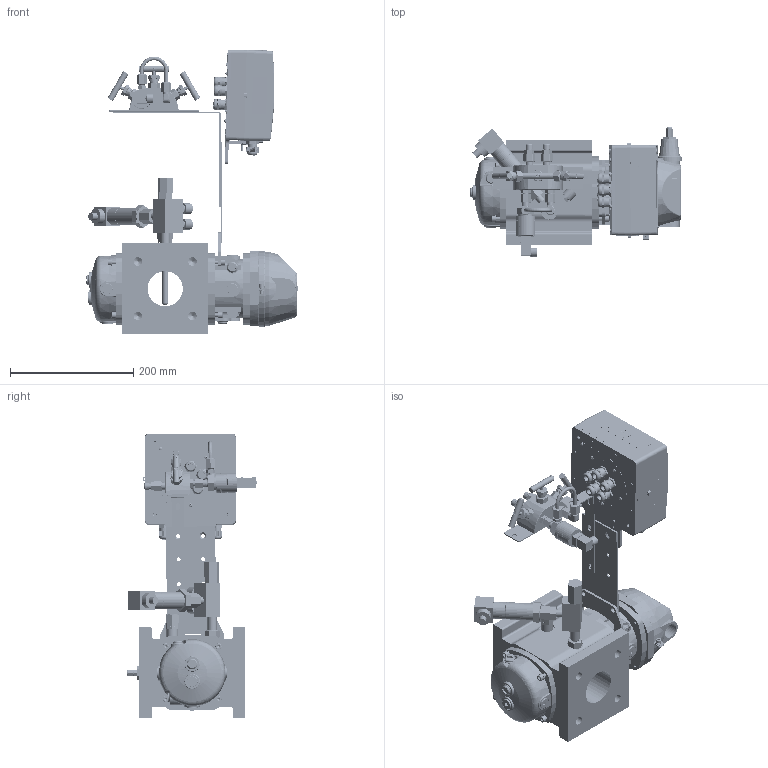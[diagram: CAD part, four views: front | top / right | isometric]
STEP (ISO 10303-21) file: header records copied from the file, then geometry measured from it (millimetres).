
FILE_DESCRIPTION(('STEP AP242'), '1');
FILE_NAME('25 áåç èñòîðèè', '', ('UNSPECIFIED'), ('UNSPECIFIED'), 'C3D Converter', 'C3D Toolkit', '');
FILE_SCHEMA(('AP242_MANAGED_MODEL_BASED_3D_ENGINEERING_MIM_LF { 1 0 10303 442 1 1 4 }'));
Length unit declared in the file: millimetre
Bounding box: 343 x 210.57 x 461.79 mm (x, y, z)
Volume: 5427798 mm3; surface area: 945527.3 mm2
Topology: 146 solids, 148 shells, 33059 faces, 89919 edges, 59448 vertices
Faces by surface type: plane 15415, extrusion 11492, cylinder 4287, cone 732, bspline 680, torus 379, sphere 74
Full cylindrical faces by diameter (mm): 1.5 x1, 1.95 x3, 2 x12, 2.459 x22, 2.5 x4, 2.791 x2, 2.9 x4, 3 x30, 3.2 x13, 3.242 x8, 3.3 x6, 3.45 x7, 3.5 x16, 4 x18, 4.1 x8, 4.134 x5, 4.2 x12, 4.4 x1, 4.917 x11, 5 x22, 5.2 x4, 5.5 x20, 5.6 x20, 6 x23, 6.2 x2, 6.4 x6, 6.5 x16, 6.6 x9, 7 x18, 8 x22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
Entity records: 1416082 total; most frequent: CARTESIAN_POINT 382006, ORIENTED_EDGE 177010, DIRECTION 126282, EDGE_CURVE 88505, VECTOR 63272, VERTEX_POINT 59398, LINE 51780, B_SPLINE_CURVE_WITH_KNOTS 37391
